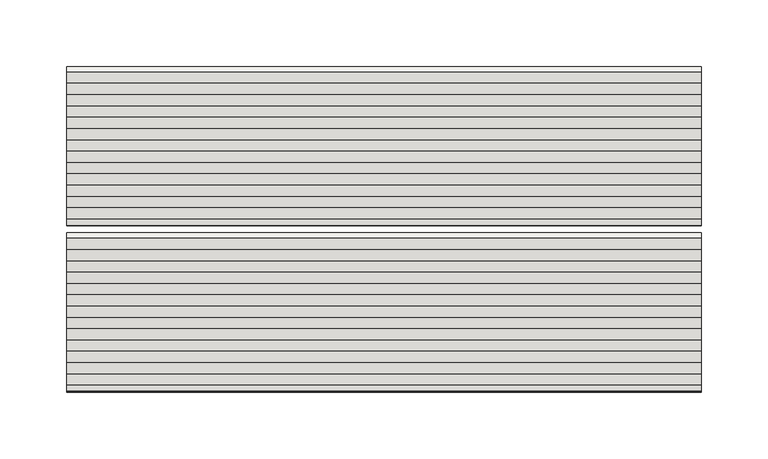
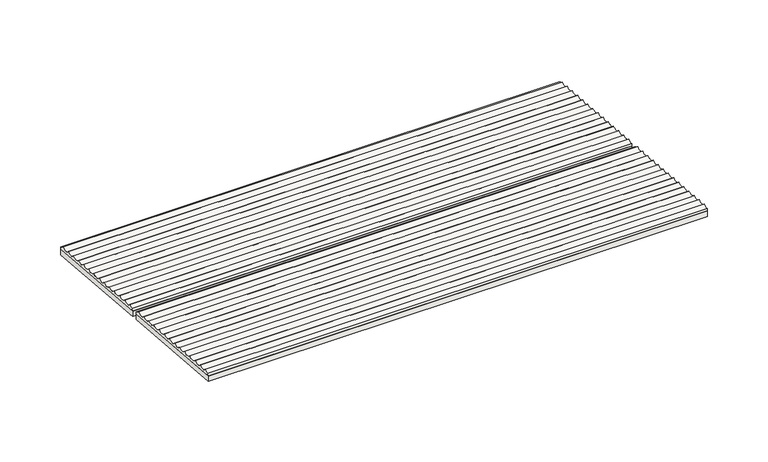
"""IFC4 building model written with IfcOpenShell, lengths in millimetres: slab geometry, ROSA GRES_001 (2 filas) : Piezas 001_Aqua_Blanco_Anti-Slip."""

from ifc_helpers import new_model, si_unit, point, frame, frame_2d, origin, place, context, project, spatial, polyline, circle_curve, trimmed, segment, composite_curve, outline, extrude, source, transform, mapped, element, save


def slab_9c0a884b(model_context):
    return source(origin(), model_context, "Body", "SweptSolid", [
        extrude(outline(polyline([(0.0, 118.9996), (475.4755445, 118.9996), (475.4755445, 0.0), (0.0, 0.0), (0.0, 118.9996)])), frame((475.4755445, -124.0577627, 199.6968204), z_axis=(0.0, 0.08112705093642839, 0.9967037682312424), x_axis=(-1.0, 0.0, 0.0)), (0.0, 0.0, 1.0), 5.0),
        extrude(outline(polyline([(0.0, 118.9996), (475.4755445, 118.9996), (475.4755445, 0.0), (0.0, 0.0), (0.0, 118.9996)])), frame((475.4755445, -248.6453351, 209.8376693), z_axis=(0.0, 0.08112705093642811, 0.9967037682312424), x_axis=(-1.0, 0.0, 0.0)), (0.0, 0.0, 1.0), 5.0),
        extrude(outline(composite_curve([segment(polyline([(-242.2594772, 214.3344258), (-242.046278, 216.9537305)]), True, "CONTINUOUS"), segment(trimmed(circle_curve(frame_2d((-241.5926747, 222.5265709)), 5.5912705), [point((-242.046278, 216.9537305))], [point((-237.6514463, 218.5605875))], True, "CARTESIAN"), True, "CONTINUOUS"), segment(trimmed(circle_curve(frame_2d((-233.1207211, 221.8369933)), 5.5912705), [point((-237.6514463, 218.5605875))], [point((-229.1794928, 217.8710099))], True, "CARTESIAN"), True, "CONTINUOUS"), segment(trimmed(circle_curve(frame_2d((-224.6487676, 221.1474157)), 5.5912705), [point((-229.1794928, 217.8710099))], [point((-220.7075392, 217.1814322))], True, "CARTESIAN"), True, "CONTINUOUS"), segment(trimmed(circle_curve(frame_2d((-216.176814, 220.457838)), 5.5912705), [point((-220.7075392, 217.1814322))], [point((-212.2355856, 216.4918546))], True, "CARTESIAN"), True, "CONTINUOUS"), segment(trimmed(circle_curve(frame_2d((-207.7048605, 219.7682604)), 5.5912705), [point((-212.2355856, 216.4918546))], [point((-203.7636321, 215.802277))], True, "CARTESIAN"), True, "CONTINUOUS"), segment(trimmed(circle_curve(frame_2d((-199.2329069, 219.0786828)), 5.5912705), [point((-203.7636321, 215.802277))], [point((-195.2916785, 215.1126994))], True, "CARTESIAN"), True, "CONTINUOUS"), segment(trimmed(circle_curve(frame_2d((-190.7609534, 218.3891052)), 5.5912705), [point((-195.2916785, 215.1126994))], [point((-186.819725, 214.4231218))], True, "CARTESIAN"), True, "CONTINUOUS"), segment(trimmed(circle_curve(frame_2d((-182.2889998, 217.6995276)), 5.5912705), [point((-186.819725, 214.4231218))], [point((-178.3477714, 213.7335442))], True, "CARTESIAN"), True, "CONTINUOUS"), segment(trimmed(circle_curve(frame_2d((-173.8170463, 217.00995)), 5.5912705), [point((-178.3477714, 213.7335442))], [point((-169.8758179, 213.0439666))], True, "CARTESIAN"), True, "CONTINUOUS"), segment(trimmed(circle_curve(frame_2d((-165.3450927, 216.3203723)), 5.5912705), [point((-169.8758179, 213.0439666))], [point((-161.4038643, 212.3543889))], True, "CARTESIAN"), True, "CONTINUOUS"), segment(trimmed(circle_curve(frame_2d((-156.8731392, 215.6307947)), 5.5912705), [point((-161.4038643, 212.3543889))], [point((-152.9319108, 211.6648113))], True, "CARTESIAN"), True, "CONTINUOUS"), segment(trimmed(circle_curve(frame_2d((-148.4011856, 214.9412171)), 5.5912705), [point((-152.9319108, 211.6648113))], [point((-144.4599572, 210.9752337))], True, "CARTESIAN"), True, "CONTINUOUS"), segment(trimmed(circle_curve(frame_2d((-139.929232, 214.2516395)), 5.5912705), [point((-144.4599572, 210.9752337))], [point((-135.9880037, 210.2856561))], True, "CARTESIAN"), True, "CONTINUOUS"), segment(trimmed(circle_curve(frame_2d((-131.4572785, 213.5620619)), 5.5912705), [point((-135.9880037, 210.2856561))], [point((-127.5160501, 209.5960785))], True, "CARTESIAN"), True, "CONTINUOUS"), segment(trimmed(circle_curve(frame_2d((-122.9853249, 212.8724843)), 5.5912705), [point((-127.5160501, 209.5960785))], [point((-123.4389282, 207.2996439))], True, "CARTESIAN"), True, "CONTINUOUS"), segment(polyline([(-123.4389282, 207.2996439), (-123.6521274, 204.6803392), (-242.2594772, 214.3344258)]), True, "CONTINUOUS")], self_intersect=False)), frame((0.0, 0.0, 0.0), z_axis=(1.0, 0.0, 0.0), x_axis=(0.0, 1.0, 0.0)), (0.0, 0.0, 1.0), 475.4755445),
        extrude(outline(composite_curve([segment(polyline([(-366.8470495, 224.4752747), (-366.6338503, 227.0945794)]), True, "CONTINUOUS"), segment(trimmed(circle_curve(frame_2d((-366.180247, 232.6674198)), 5.5912705), [point((-366.6338503, 227.0945794))], [point((-362.2390187, 228.7014364))], True, "CARTESIAN"), True, "CONTINUOUS"), segment(trimmed(circle_curve(frame_2d((-357.7082935, 231.9778422)), 5.5912705), [point((-362.2390187, 228.7014364))], [point((-353.7670651, 228.0118588))], True, "CARTESIAN"), True, "CONTINUOUS"), segment(trimmed(circle_curve(frame_2d((-349.2363399, 231.2882646)), 5.5912705), [point((-353.7670651, 228.0118588))], [point((-345.2951115, 227.3222812))], True, "CARTESIAN"), True, "CONTINUOUS"), segment(trimmed(circle_curve(frame_2d((-340.7643864, 230.5986869)), 5.5912705), [point((-345.2951115, 227.3222812))], [point((-336.823158, 226.6327035))], True, "CARTESIAN"), True, "CONTINUOUS"), segment(trimmed(circle_curve(frame_2d((-332.2924328, 229.9091093)), 5.5912705), [point((-336.823158, 226.6327035))], [point((-328.3512044, 225.9431259))], True, "CARTESIAN"), True, "CONTINUOUS"), segment(trimmed(circle_curve(frame_2d((-323.8204793, 229.2195317)), 5.5912705), [point((-328.3512044, 225.9431259))], [point((-319.8792509, 225.2535483))], True, "CARTESIAN"), True, "CONTINUOUS"), segment(trimmed(circle_curve(frame_2d((-315.3485257, 228.5299541)), 5.5912705), [point((-319.8792509, 225.2535483))], [point((-311.4072973, 224.5639707))], True, "CARTESIAN"), True, "CONTINUOUS"), segment(trimmed(circle_curve(frame_2d((-306.8765722, 227.8403765)), 5.5912705), [point((-311.4072973, 224.5639707))], [point((-302.9353438, 223.8743931))], True, "CARTESIAN"), True, "CONTINUOUS"), segment(trimmed(circle_curve(frame_2d((-298.4046186, 227.1507989)), 5.5912705), [point((-302.9353438, 223.8743931))], [point((-294.4633902, 223.1848155))], True, "CARTESIAN"), True, "CONTINUOUS"), segment(trimmed(circle_curve(frame_2d((-289.9326651, 226.4612213)), 5.5912705), [point((-294.4633902, 223.1848155))], [point((-285.9914367, 222.4952379))], True, "CARTESIAN"), True, "CONTINUOUS"), segment(trimmed(circle_curve(frame_2d((-281.4607115, 225.7716436)), 5.5912705), [point((-285.9914367, 222.4952379))], [point((-277.5194831, 221.8056602))], True, "CARTESIAN"), True, "CONTINUOUS"), segment(trimmed(circle_curve(frame_2d((-272.9887579, 225.082066)), 5.5912705), [point((-277.5194831, 221.8056602))], [point((-269.0475296, 221.1160826))], True, "CARTESIAN"), True, "CONTINUOUS"), segment(trimmed(circle_curve(frame_2d((-264.5168044, 224.3924884)), 5.5912705), [point((-269.0475296, 221.1160826))], [point((-260.575576, 220.426505))], True, "CARTESIAN"), True, "CONTINUOUS"), segment(trimmed(circle_curve(frame_2d((-256.0448508, 223.7029108)), 5.5912705), [point((-260.575576, 220.426505))], [point((-252.1036225, 219.7369274))], True, "CARTESIAN"), True, "CONTINUOUS"), segment(trimmed(circle_curve(frame_2d((-247.5728973, 223.0133332)), 5.5912705), [point((-252.1036225, 219.7369274))], [point((-248.0265006, 217.4404928))], True, "CARTESIAN"), True, "CONTINUOUS"), segment(polyline([(-248.0265006, 217.4404928), (-248.2396998, 214.8211881), (-366.8470495, 224.4752747)]), True, "CONTINUOUS")], self_intersect=False)), frame((0.0, 0.0, 0.0), z_axis=(1.0, 0.0, 0.0), x_axis=(0.0, 1.0, 0.0)), (0.0, 0.0, 1.0), 475.4755445),
    ])


if __name__ == "__main__":
    model = new_model("IFC4")
    model_context = context("Model", 3, world=origin())
    ifc_project = project(units=[si_unit("LENGTHUNIT", "METRE", prefix="MILLI")], contexts=[model_context])
    site = spatial("IfcSite", under=ifc_project)
    building = spatial("IfcBuilding", under=site)
    placement = place(None, origin())
    slab_shape = slab_9c0a884b(model_context)
    element("IfcSlab", 1, ObjectType="ROSA GRES_001 (2 filas) : Piezas 001_Aqua_Blanco_Anti-Slip", at=placement, inside=building, context=model_context, shape_type="MappedRepresentation", body=[
        mapped(slab_shape, transform((0.0, 0.0, 0.0), x_axis=(1.0, 0.0, 0.0), y_axis=(0.0, 1.0, 0.0), z_axis=(0.0, 0.0, 1.0))),
    ])
    save(model, "model.ifc")
